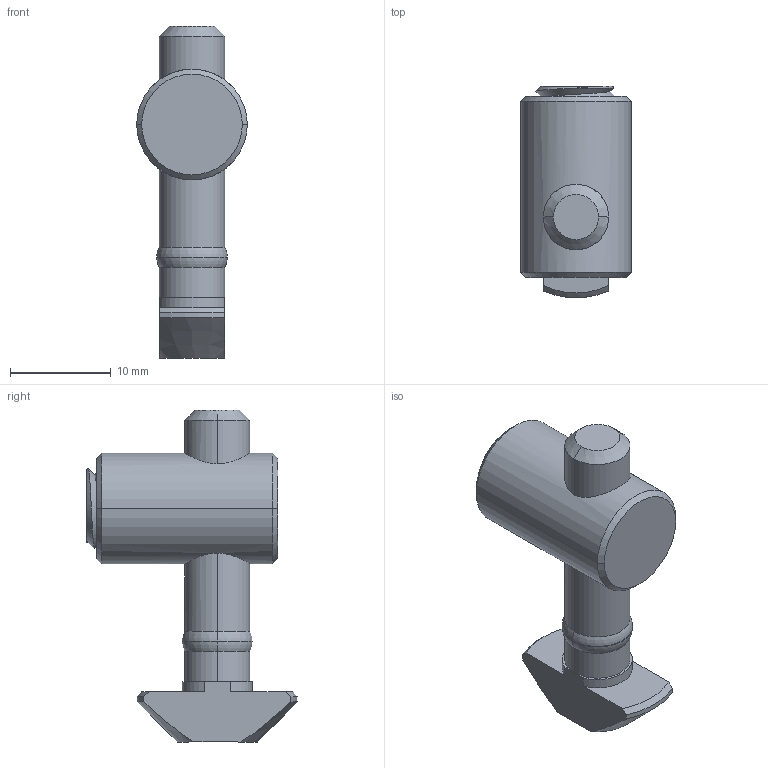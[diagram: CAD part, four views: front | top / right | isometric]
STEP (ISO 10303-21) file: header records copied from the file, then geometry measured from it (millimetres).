
FILE_DESCRIPTION (( 'STEP AP203' ), '1' );
FILE_NAME ('5211.STEP', '2016-04-10T13:01:06', ( '' ), ( '' ), 'SwSTEP 2.0', 'SolidWorks 2014', '' );
FILE_SCHEMA (( 'CONFIG_CONTROL_DESIGN' ));
Length unit declared in the file: millimetre
Products named in the file (4): 鍔錓 鵽鎀 0; Ãàéêà óäåðæèâàþùàÿ Ì8 îòâ 6.5; Âèíò Ì8 õ 10; 5211
Assembly tree (3 placements, depth 2):
  5211
    鍔錓 鵽鎀 0
    Ãàéêà óäåðæèâàþùàÿ Ì8 îòâ 6.5
    Âèíò Ì8 õ 10
Bounding box: 11 x 20.97 x 33 mm (x, y, z)
Volume: 2419.5 mm3; surface area: 2471.2 mm2
Topology: 3 solids, 3 shells, 69 faces, 170 edges, 106 vertices
Faces by surface type: plane 20, cylinder 18, bspline 15, cone 12, torus 4
Entity records: 7632 total; most frequent: CARTESIAN_POINT 5772, ORIENTED_EDGE 336, DIRECTION 261, EDGE_CURVE 168, VERTEX_POINT 106, AXIS2_PLACEMENT_3D 101, EDGE_LOOP 74, ADVANCED_FACE 69
